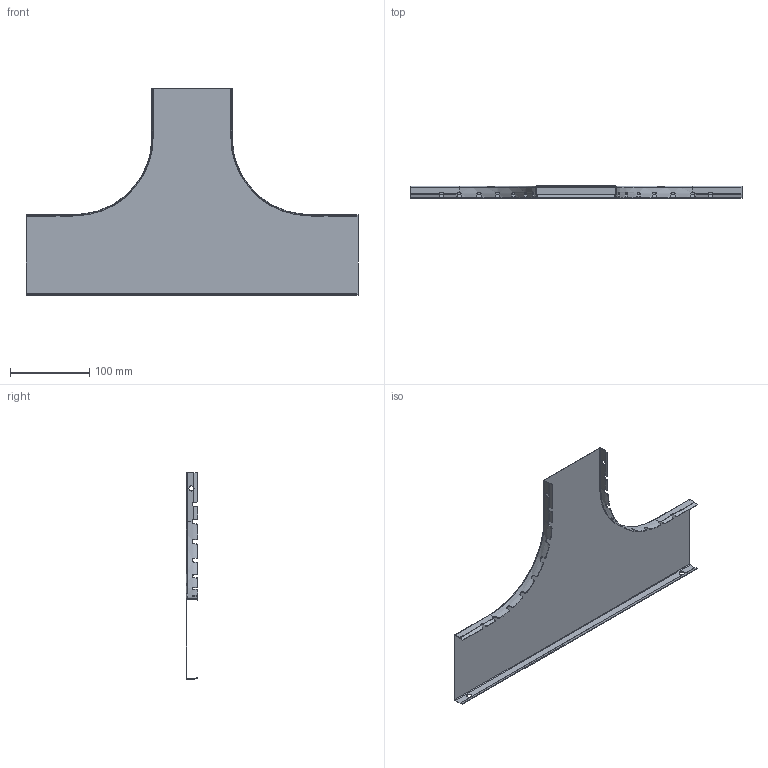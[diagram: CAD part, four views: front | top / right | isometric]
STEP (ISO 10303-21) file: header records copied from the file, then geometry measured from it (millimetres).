
FILE_DESCRIPTION (( 'STEP AP203' ), '1' );
FILE_NAME ('ERE_TAPA TE 100.step', '2023-07-28T14:50:53', ( '' ), ( '' ), 'SwSTEP 2.0', 'SolidWorks 2022', '' );
FILE_SCHEMA (( 'CONFIG_CONTROL_DESIGN' ));
Length unit declared in the file: millimetre
Products named in the file (1): ERE_TAPA TE 100
Bounding box: 420 x 14.96 x 261.5 mm (x, y, z)
Volume: 52996.6 mm3; surface area: 152588.5 mm2
Topology: 1 solids, 1 shells, 318 faces, 828 edges, 504 vertices
Faces by surface type: plane 154, bspline 88, cylinder 72, torus 4
Entity records: 17949 total; most frequent: CARTESIAN_POINT 10921, ORIENTED_EDGE 1656, DIRECTION 1135, EDGE_CURVE 828, VERTEX_POINT 504, AXIS2_PLACEMENT_3D 411, B_SPLINE_CURVE_WITH_KNOTS 335, ADVANCED_FACE 318
